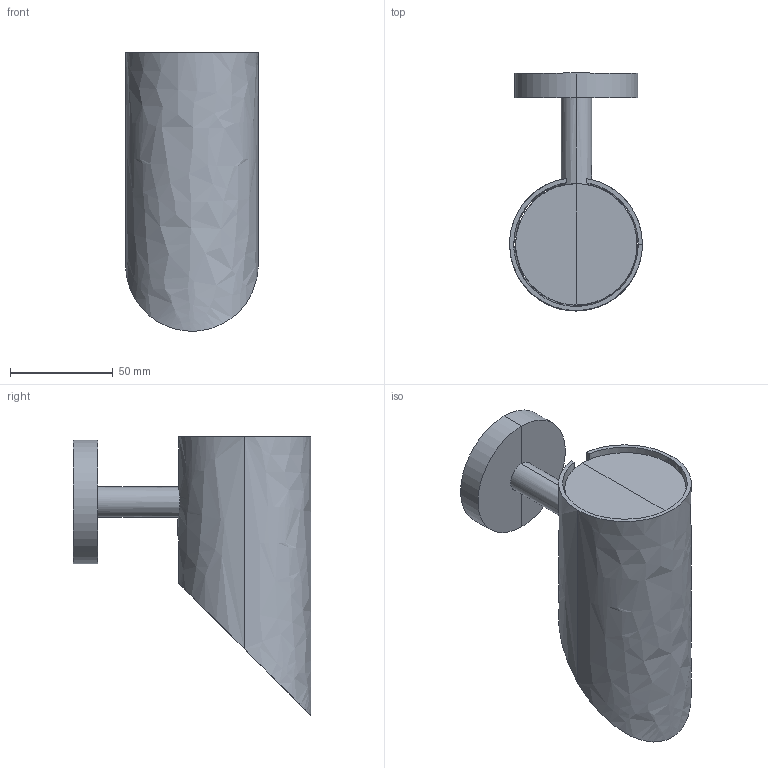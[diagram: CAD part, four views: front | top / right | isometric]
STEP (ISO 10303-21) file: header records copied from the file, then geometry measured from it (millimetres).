
FILE_DESCRIPTION(/* description */ (''),/* implementation_level */ '2;1');
FILE_NAME(/* name */ 'Wally S',/* time_stamp */ '2025-06-18T18:25:27+02:00',/* author */ (''),/* organization */ (''),/* preprocessor_version */ 'ST-DEVELOPER v15',/* originating_system */ '',/* authorisation */ '');
FILE_SCHEMA (('CONFIG_CONTROL_DESIGN'));
Length unit declared in the file: millimetre
Products named in the file (1): Document
Bounding box: 64.59 x 115.53 x 135.42 mm (x, y, z)
Volume: 228967.8 mm3; surface area: 102655.2 mm2
Topology: 9 solids, 9 shells, 179 faces, 415 edges, 227 vertices
Faces by surface type: bspline 179
Entity records: 12410 total; most frequent: CARTESIAN_POINT 7311, B_SPLINE_CURVE_WITH_KNOTS 968, ORIENTED_EDGE 808, PCURVE 808, DEFINITIONAL_REPRESENTATION 808, SURFACE_CURVE 404, EDGE_CURVE 404, VERTEX_POINT 225
